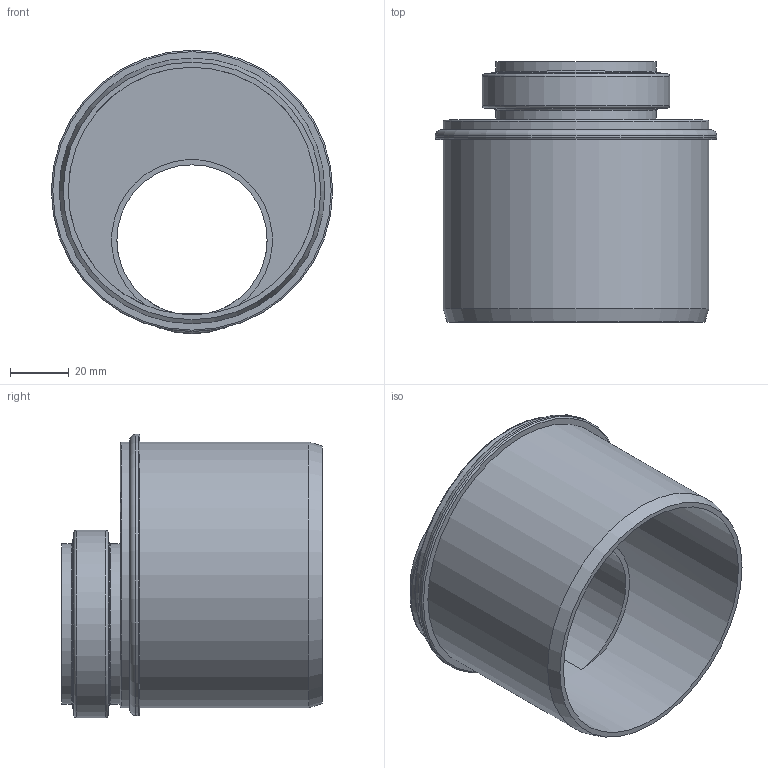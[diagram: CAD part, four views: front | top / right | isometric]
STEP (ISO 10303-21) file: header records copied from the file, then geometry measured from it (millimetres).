
FILE_DESCRIPTION(/* description */ (''),/* implementation_level */ '2;1');
FILE_NAME(/* name */ 'Z:\Geberit\Export\Export15\Reduktion PP-MD_Ipart\stp\390474.stp',/* time_stamp */ '2014-04-27T21:13:02+02:00',/* author */ ('Bründl'),/* organization */ (''),/* preprocessor_version */ 'ST-DEVELOPER v15.2',/* originating_system */ 'Autodesk Inventor 2014',/* authorisation */ '');
FILE_SCHEMA (('AUTOMOTIVE_DESIGN { 1 0 10303 214 3 1 1 }'));
Length unit declared in the file: millimetre
Products named in the file (1): 390474
Bounding box: 95.52 x 88.4 x 96.26 mm (x, y, z)
Volume: 97967.3 mm3; surface area: 62664.9 mm2
Topology: 1 solids, 1 shells, 35 faces, 71 edges, 41 vertices
Faces by surface type: torus 11, cylinder 11, plane 8, cone 5
Full cylindrical faces by diameter (mm): 51 x2, 54.6 x2, 60.1 x1, 63.7 x1, 84 x1, 90.2 x2, 95.52 x1
Entity records: 814 total; most frequent: DIRECTION 152, CARTESIAN_POINT 116, ORIENTED_EDGE 84, AXIS2_PLACEMENT_3D 74, EDGE_LOOP 66, EDGE_CURVE 42, CIRCLE 38, VERTEX_POINT 38
